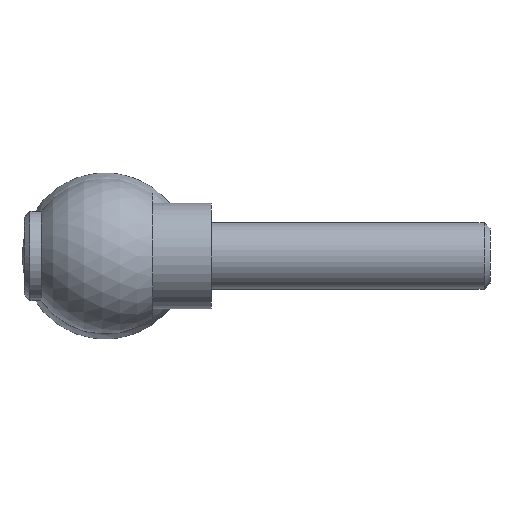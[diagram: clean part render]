
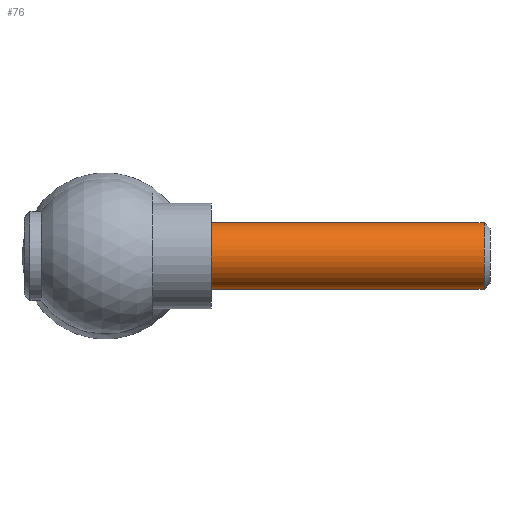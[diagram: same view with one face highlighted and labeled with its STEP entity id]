
A CAD part, left-side view. The second image highlights one B-rep face of the part: STEP entity #76.
In plain terms, the highlighted cylindrical face has radius 6 mm (diameter 12 mm), a full revolution.
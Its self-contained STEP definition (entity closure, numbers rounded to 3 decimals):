
#76 = ADVANCED_FACE( '', ( #92, #93 ), #94, .T. );
#92 = FACE_OUTER_BOUND( '', #130, .T. );
#93 = FACE_OUTER_BOUND( '', #131, .T. );
#94 = CYLINDRICAL_SURFACE( '', #132, 6. );
#130 = EDGE_LOOP( '', ( #170 ) );
#131 = EDGE_LOOP( '', ( #171 ) );
#132 = AXIS2_PLACEMENT_3D( '', #172, #173, #174 );
#170 = ORIENTED_EDGE( '', *, *, #230, .F. );
#171 = ORIENTED_EDGE( '', *, *, #231, .T. );
#172 = CARTESIAN_POINT( '', ( 0., -50., 0. ) );
#173 = DIRECTION( '', ( 0., 1., 0. ) );
#174 = DIRECTION( '', ( 1., 0., 0. ) );
#230 = EDGE_CURVE( '', #244, #244, #245, .T. );
#231 = EDGE_CURVE( '', #246, #246, #247, .T. );
#244 = VERTEX_POINT( '', #268 );
#245 = CIRCLE( '', #269, 6. );
#246 = VERTEX_POINT( '', #270 );
#247 = CIRCLE( '', #271, 6. );
#268 = CARTESIAN_POINT( '', ( 6., -48.927, 0. ) );
#269 = AXIS2_PLACEMENT_3D( '', #293, #294, #295 );
#270 = CARTESIAN_POINT( '', ( 6., 0., 0. ) );
#271 = AXIS2_PLACEMENT_3D( '', #296, #297, #298 );
#293 = CARTESIAN_POINT( '', ( 0., -48.927, 0. ) );
#294 = DIRECTION( '', ( 0., -1., 0. ) );
#295 = DIRECTION( '', ( 1., 0., 0. ) );
#296 = CARTESIAN_POINT( '', ( 0., 0., 0. ) );
#297 = DIRECTION( '', ( 0., -1., 0. ) );
#298 = DIRECTION( '', ( 1., 0., 0. ) );
